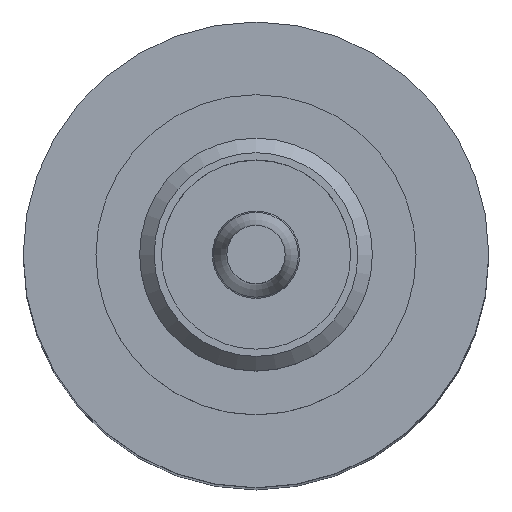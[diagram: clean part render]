
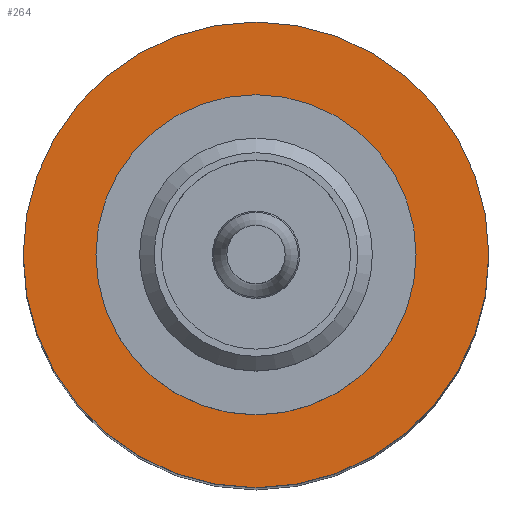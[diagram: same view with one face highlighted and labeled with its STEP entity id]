
A CAD part, top view. The second image highlights one B-rep face of the part: STEP entity #264.
In plain terms, the highlighted planar face has unit normal (0, 0, 1).
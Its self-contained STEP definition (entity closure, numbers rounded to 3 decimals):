
#209=PLANE('',#1080);
#264=ADVANCED_FACE('',(#348,#349),#209,.T.);
#348=FACE_BOUND('',#445,.T.);
#349=FACE_BOUND('',#446,.T.);
#445=EDGE_LOOP('',(#681));
#446=EDGE_LOOP('',(#682));
#681=ORIENTED_EDGE('',*,*,#903,.T.);
#682=ORIENTED_EDGE('',*,*,#801,.F.);
#711=VERTEX_POINT('',#1427);
#785=VERTEX_POINT('',#1652);
#801=EDGE_CURVE('',#711,#711,#919,.T.);
#903=EDGE_CURVE('',#785,#785,#965,.T.);
#919=CIRCLE('',#984,8.);
#965=CIRCLE('',#1079,5.5);
#984=AXIS2_PLACEMENT_3D('',#1426,#1119,#1120);
#1079=AXIS2_PLACEMENT_3D('',#1651,#1365,#1366);
#1080=AXIS2_PLACEMENT_3D('',#1653,#1367,#1368);
#1119=DIRECTION('',(0.,0.,-1.));
#1120=DIRECTION('',(-1.,0.,0.));
#1365=DIRECTION('',(0.,0.,-1.));
#1366=DIRECTION('',(-1.,0.,0.));
#1367=DIRECTION('',(0.,0.,1.));
#1368=DIRECTION('',(1.,0.,0.));
#1426=CARTESIAN_POINT('',(0.,0.,3.1));
#1427=CARTESIAN_POINT('',(-8.,0.,3.1));
#1651=CARTESIAN_POINT('',(0.,0.,3.1));
#1652=CARTESIAN_POINT('',(-5.5,0.,3.1));
#1653=CARTESIAN_POINT('',(8.,0.,3.1));
